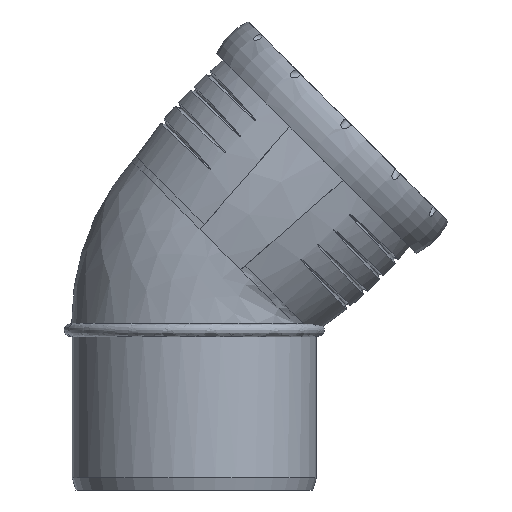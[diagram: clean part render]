
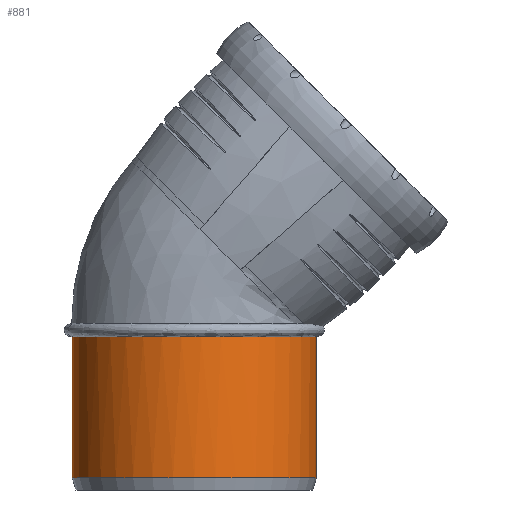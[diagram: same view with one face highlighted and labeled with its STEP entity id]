
A CAD part, front view. The second image highlights one B-rep face of the part: STEP entity #881.
In plain terms, the highlighted cylindrical face has radius 55.1 mm (diameter 110.2 mm), a full revolution.
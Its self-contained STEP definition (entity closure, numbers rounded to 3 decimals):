
#34=FACE_BOUND('',#145,.T.);
#60=CYLINDRICAL_SURFACE('',#948,55.1);
#91=FACE_OUTER_BOUND('',#144,.T.);
#144=EDGE_LOOP('',(#583,#584,#585,#586));
#145=EDGE_LOOP('',(#587));
#214=CIRCLE('',#937,55.1);
#218=CIRCLE('',#949,55.1);
#219=CIRCLE('',#950,55.1);
#220=CIRCLE('',#951,55.1);
#221=CIRCLE('',#952,55.1);
#342=VERTEX_POINT('',#1363);
#344=VERTEX_POINT('',#1384);
#351=VERTEX_POINT('',#1543);
#352=VERTEX_POINT('',#1545);
#353=VERTEX_POINT('',#1548);
#437=EDGE_CURVE('',#342,#344,#214,.T.);
#448=EDGE_CURVE('',#351,#342,#218,.T.);
#449=EDGE_CURVE('',#344,#352,#219,.T.);
#450=EDGE_CURVE('',#352,#351,#220,.T.);
#451=EDGE_CURVE('',#353,#353,#221,.T.);
#583=ORIENTED_EDGE('',*,*,#448,.T.);
#584=ORIENTED_EDGE('',*,*,#437,.T.);
#585=ORIENTED_EDGE('',*,*,#449,.T.);
#586=ORIENTED_EDGE('',*,*,#450,.T.);
#587=ORIENTED_EDGE('',*,*,#451,.F.);
#881=ADVANCED_FACE('',(#91,#34),#60,.T.);
#937=AXIS2_PLACEMENT_3D('',#1403,#1029,#1030);
#948=AXIS2_PLACEMENT_3D('',#1542,#1051,#1052);
#949=AXIS2_PLACEMENT_3D('',#1544,#1053,#1054);
#950=AXIS2_PLACEMENT_3D('',#1546,#1055,#1056);
#951=AXIS2_PLACEMENT_3D('',#1547,#1057,#1058);
#952=AXIS2_PLACEMENT_3D('',#1549,#1059,#1060);
#1029=DIRECTION('center_axis',(0.,0.,-1.));
#1030=DIRECTION('ref_axis',(1.,0.,0.));
#1051=DIRECTION('center_axis',(0.,0.,-1.));
#1052=DIRECTION('ref_axis',(0.,1.,0.));
#1053=DIRECTION('center_axis',(0.,0.,-1.));
#1054=DIRECTION('ref_axis',(1.,0.,0.));
#1055=DIRECTION('center_axis',(0.,0.,-1.));
#1056=DIRECTION('ref_axis',(1.,0.,0.));
#1057=DIRECTION('center_axis',(0.,0.,-1.));
#1058=DIRECTION('ref_axis',(1.,0.,0.));
#1059=DIRECTION('center_axis',(0.,0.,-1.));
#1060=DIRECTION('ref_axis',(1.,0.,0.));
#1363=CARTESIAN_POINT('',(11.977,53.783,69.1));
#1384=CARTESIAN_POINT('',(11.977,-53.783,69.1));
#1403=CARTESIAN_POINT('Origin',(0.,0.,69.1));
#1542=CARTESIAN_POINT('Origin',(0.,0.,37.3));
#1543=CARTESIAN_POINT('',(0.,55.1,69.1));
#1544=CARTESIAN_POINT('Origin',(0.,0.,69.1));
#1545=CARTESIAN_POINT('',(-55.1,0.,69.1));
#1546=CARTESIAN_POINT('Origin',(0.,0.,69.1));
#1547=CARTESIAN_POINT('Origin',(0.,0.,69.1));
#1548=CARTESIAN_POINT('',(0.,55.1,5.5));
#1549=CARTESIAN_POINT('Origin',(0.,0.,5.5));
